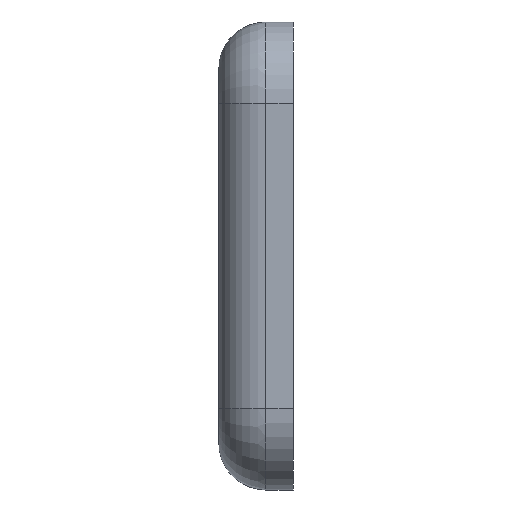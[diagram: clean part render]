
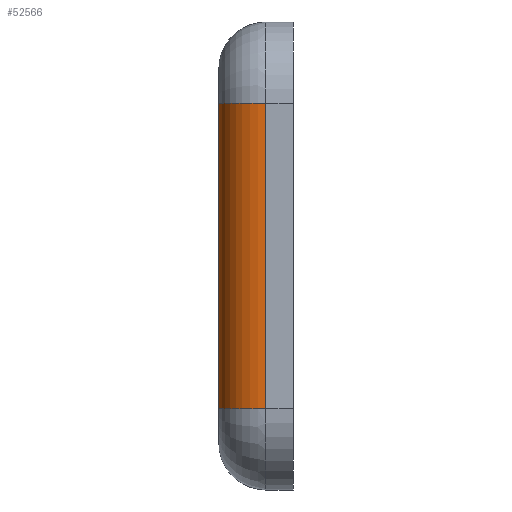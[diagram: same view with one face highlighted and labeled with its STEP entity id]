
A CAD part, left-side view. The second image highlights one B-rep face of the part: STEP entity #52566.
In plain terms, the highlighted cylindrical face has radius 25.4 mm (diameter 50.8 mm), a partial arc.
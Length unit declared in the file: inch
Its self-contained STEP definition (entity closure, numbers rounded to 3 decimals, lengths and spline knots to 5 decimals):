
#1911 = CARTESIAN_POINT ( 'NONE',  ( -5.14628, 0.7, 3.26203 ) ) ;
#6328 = FACE_OUTER_BOUND ( 'NONE', #20612, .T. ) ;
#6917 = DIRECTION ( 'NONE',  ( 0., 1., 0. ) ) ;
#10609 = ORIENTED_EDGE ( 'NONE', *, *, #13263, .F. ) ;
#10908 = DIRECTION ( 'NONE',  ( 0., 0., 1. ) ) ;
#12274 = DIRECTION ( 'NONE',  ( 0., 0., -1. ) ) ;
#12908 = AXIS2_PLACEMENT_3D ( 'NONE', #57878, #24699, #58355 ) ;
#13263 = EDGE_CURVE ( 'NONE', #20603, #66471, #68064, .T. ) ;
#16221 = ORIENTED_EDGE ( 'NONE', *, *, #54676, .F. ) ;
#20603 = VERTEX_POINT ( 'NONE', #53336 ) ;
#20612 = EDGE_LOOP ( 'NONE', ( #56146, #16221, #32045, #10609 ) ) ;
#20775 = CIRCLE ( 'NONE', #43845, 1. ) ;
#24699 = DIRECTION ( 'NONE',  ( 0., 0., -1. ) ) ;
#25889 = DIRECTION ( 'NONE',  ( 0., 0., -1. ) ) ;
#29784 = CIRCLE ( 'NONE', #54009, 1. ) ;
#31244 = CARTESIAN_POINT ( 'NONE',  ( -6.14628, 0.7, -3.23799 ) ) ;
#32025 = EDGE_CURVE ( 'NONE', #66471, #57419, #29784, .T. ) ;
#32045 = ORIENTED_EDGE ( 'NONE', *, *, #32025, .F. ) ;
#32298 = LINE ( 'NONE', #32596, #37533 ) ;
#32596 = CARTESIAN_POINT ( 'NONE',  ( -5.14628, 1.7, 0. ) ) ;
#36151 = EDGE_CURVE ( 'NONE', #20603, #71260, #20775, .T. ) ;
#37337 = CARTESIAN_POINT ( 'NONE',  ( -5.14628, 1.7, -3.23799 ) ) ;
#37533 = VECTOR ( 'NONE', #10908, 39.37008 ) ;
#41352 = DIRECTION ( 'NONE',  ( 0., 0., -1. ) ) ;
#43248 = CARTESIAN_POINT ( 'NONE',  ( -6.14628, 0.7, -3.23799 ) ) ;
#43845 = AXIS2_PLACEMENT_3D ( 'NONE', #1911, #41352, #58205 ) ;
#46665 = CARTESIAN_POINT ( 'NONE',  ( -5.14628, 1.7, 3.26206 ) ) ;
#49013 = CYLINDRICAL_SURFACE ( 'NONE', #12908, 1. ) ;
#52566 = ADVANCED_FACE ( 'NONE', ( #6328 ), #49013, .T. ) ;
#53158 = VECTOR ( 'NONE', #25889, 39.37008 ) ;
#53336 = CARTESIAN_POINT ( 'NONE',  ( -6.14628, 0.7, 3.26206 ) ) ;
#54009 = AXIS2_PLACEMENT_3D ( 'NONE', #62516, #12274, #6917 ) ;
#54676 = EDGE_CURVE ( 'NONE', #57419, #71260, #32298, .T. ) ;
#56146 = ORIENTED_EDGE ( 'NONE', *, *, #36151, .T. ) ;
#57419 = VERTEX_POINT ( 'NONE', #37337 ) ;
#57878 = CARTESIAN_POINT ( 'NONE',  ( -5.14628, 0.7, -3.23799 ) ) ;
#58205 = DIRECTION ( 'NONE',  ( -1., 0., 0. ) ) ;
#58355 = DIRECTION ( 'NONE',  ( -1., 0., 0. ) ) ;
#62516 = CARTESIAN_POINT ( 'NONE',  ( -5.14628, 0.7, -3.23799 ) ) ;
#66471 = VERTEX_POINT ( 'NONE', #43248 ) ;
#68064 = LINE ( 'NONE', #31244, #53158 ) ;
#71260 = VERTEX_POINT ( 'NONE', #46665 ) ;
